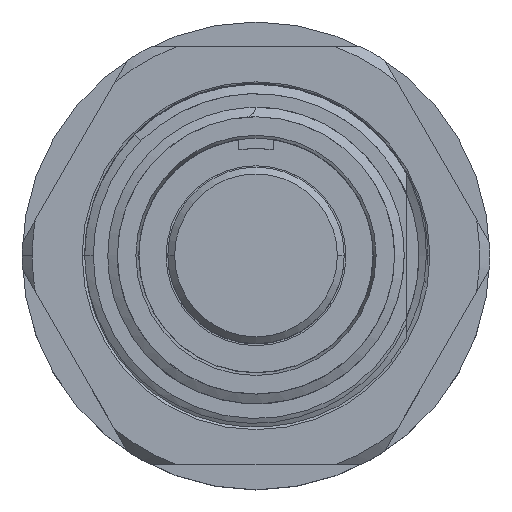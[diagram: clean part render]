
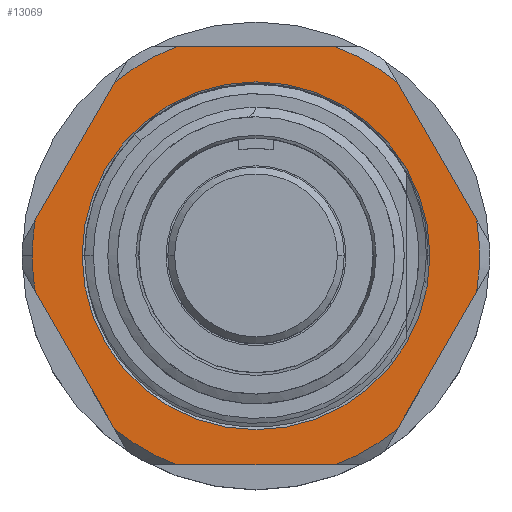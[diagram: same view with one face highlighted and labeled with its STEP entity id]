
A CAD part, top view. The second image highlights one B-rep face of the part: STEP entity #13069.
In plain terms, the highlighted planar face has unit normal (0, 0, 1).
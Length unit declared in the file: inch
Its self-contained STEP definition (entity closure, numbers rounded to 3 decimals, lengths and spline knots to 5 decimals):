
#120 = AXIS2_PLACEMENT_3D ( 'NONE', #1290, #14482, #3548 ) ;
#208 = AXIS2_PLACEMENT_3D ( 'NONE', #13553, #9475, #6956 ) ;
#326 = CARTESIAN_POINT ( 'NONE',  ( 0., 0.61, -0.59 ) ) ;
#775 = CARTESIAN_POINT ( 'NONE',  ( 0.74803, 0.07562, -0.59 ) ) ;
#798 = DIRECTION ( 'NONE',  ( 0., 0., 1. ) ) ;
#973 = EDGE_CURVE ( 'NONE', #11916, #5645, #5217, .T. ) ;
#1021 = VERTEX_POINT ( 'NONE', #5315 ) ;
#1097 = VERTEX_POINT ( 'NONE', #13100 ) ;
#1211 = VERTEX_POINT ( 'NONE', #13274 ) ;
#1290 = CARTESIAN_POINT ( 'NONE',  ( 0., 0., -0.59 ) ) ;
#1325 = DIRECTION ( 'NONE',  ( 0., 0., -1. ) ) ;
#1418 = CARTESIAN_POINT ( 'NONE',  ( 0., 0., -0.59 ) ) ;
#1580 = VERTEX_POINT ( 'NONE', #7997 ) ;
#1667 = LINE ( 'NONE', #8447, #3073 ) ;
#1679 = AXIS2_PLACEMENT_3D ( 'NONE', #12071, #1325, #5249 ) ;
#1687 = EDGE_LOOP ( 'NONE', ( #16319, #13036, #3665, #13702, #3775, #3598, #13349, #6292, #15923, #15251, #8554, #9880, #3690 ) ) ;
#1839 = VERTEX_POINT ( 'NONE', #7967 ) ;
#1917 = VERTEX_POINT ( 'NONE', #3931 ) ;
#2083 = EDGE_CURVE ( 'NONE', #8717, #1097, #17136, .T. ) ;
#2262 = CARTESIAN_POINT ( 'NONE',  ( -0.23164, 0.61, -0.59 ) ) ;
#2513 = CARTESIAN_POINT ( 'NONE',  ( -0.41246, -0.5056, -0.59 ) ) ;
#2644 = AXIS2_PLACEMENT_3D ( 'NONE', #14952, #13651, #11131 ) ;
#2880 = CIRCLE ( 'NONE', #4279, 0.6525 ) ;
#3034 = EDGE_CURVE ( 'NONE', #6435, #1021, #4296, .T. ) ;
#3073 = VECTOR ( 'NONE', #4381, 39.37008 ) ;
#3199 = CARTESIAN_POINT ( 'NONE',  ( 0., -0.61, -0.59 ) ) ;
#3202 = EDGE_CURVE ( 'NONE', #11916, #10864, #15089, .T. ) ;
#3402 = CARTESIAN_POINT ( 'NONE',  ( 0., 0., -0.59 ) ) ;
#3492 = DIRECTION ( 'NONE',  ( 1., 0., 0. ) ) ;
#3523 = CARTESIAN_POINT ( 'NONE',  ( 0., 0., -0.59 ) ) ;
#3548 = DIRECTION ( 'NONE',  ( 1., 0., 0. ) ) ;
#3598 = ORIENTED_EDGE ( 'NONE', *, *, #12241, .T. ) ;
#3665 = ORIENTED_EDGE ( 'NONE', *, *, #13247, .F. ) ;
#3690 = ORIENTED_EDGE ( 'NONE', *, *, #973, .T. ) ;
#3750 = CIRCLE ( 'NONE', #13461, 0.6525 ) ;
#3775 = ORIENTED_EDGE ( 'NONE', *, *, #9316, .F. ) ;
#3929 = FACE_OUTER_BOUND ( 'NONE', #1687, .T. ) ;
#3931 = CARTESIAN_POINT ( 'NONE',  ( 0.23164, 0.61, -0.59 ) ) ;
#3991 = CIRCLE ( 'NONE', #120, 0.6525 ) ;
#4022 = PLANE ( 'NONE',  #1679 ) ;
#4279 = AXIS2_PLACEMENT_3D ( 'NONE', #5023, #13074, #17170 ) ;
#4296 = LINE ( 'NONE', #8371, #16715 ) ;
#4381 = DIRECTION ( 'NONE',  ( 0.5, -0.866, 0. ) ) ;
#4431 = DIRECTION ( 'NONE',  ( -1., 0., 0. ) ) ;
#4682 = CARTESIAN_POINT ( 'NONE',  ( -0.64409, 0.1044, -0.59 ) ) ;
#4775 = CARTESIAN_POINT ( 'NONE',  ( 0.41246, -0.5056, -0.59 ) ) ;
#4914 = EDGE_CURVE ( 'NONE', #1097, #8717, #5931, .T. ) ;
#5023 = CARTESIAN_POINT ( 'NONE',  ( 0., 0., -0.59 ) ) ;
#5163 = CARTESIAN_POINT ( 'NONE',  ( 0.23164, -0.61, -0.59 ) ) ;
#5217 = CIRCLE ( 'NONE', #6867, 0.6525 ) ;
#5249 = DIRECTION ( 'NONE',  ( -1., 0., 0. ) ) ;
#5315 = CARTESIAN_POINT ( 'NONE',  ( -0.41246, 0.5056, -0.59 ) ) ;
#5445 = VERTEX_POINT ( 'NONE', #2513 ) ;
#5535 = CARTESIAN_POINT ( 'NONE',  ( 0.5075, 0., -0.59 ) ) ;
#5645 = VERTEX_POINT ( 'NONE', #4775 ) ;
#5917 = LINE ( 'NONE', #775, #16485 ) ;
#5931 = CIRCLE ( 'NONE', #15600, 0.5075 ) ;
#6292 = ORIENTED_EDGE ( 'NONE', *, *, #14908, .T. ) ;
#6347 = EDGE_LOOP ( 'NONE', ( #9715, #11431 ) ) ;
#6435 = VERTEX_POINT ( 'NONE', #4682 ) ;
#6812 = EDGE_CURVE ( 'NONE', #9578, #1580, #3991, .T. ) ;
#6867 = AXIS2_PLACEMENT_3D ( 'NONE', #11294, #798, #15444 ) ;
#6956 = DIRECTION ( 'NONE',  ( 1., 0., 0. ) ) ;
#7390 = EDGE_CURVE ( 'NONE', #1839, #1917, #2880, .T. ) ;
#7405 = CARTESIAN_POINT ( 'NONE',  ( -0.6525, 0., -0.59 ) ) ;
#7439 = DIRECTION ( 'NONE',  ( -0.5, 0.866, 0. ) ) ;
#7519 = CARTESIAN_POINT ( 'NONE',  ( -0.74803, 0.07562, -0.59 ) ) ;
#7967 = CARTESIAN_POINT ( 'NONE',  ( 0.41246, 0.5056, -0.59 ) ) ;
#7997 = CARTESIAN_POINT ( 'NONE',  ( 0.64409, 0.1044, -0.59 ) ) ;
#8205 = AXIS2_PLACEMENT_3D ( 'NONE', #1418, #11912, #10446 ) ;
#8359 = CARTESIAN_POINT ( 'NONE',  ( 0.64409, -0.1044, -0.59 ) ) ;
#8371 = CARTESIAN_POINT ( 'NONE',  ( -0.30852, 0.68563, -0.59 ) ) ;
#8421 = EDGE_CURVE ( 'NONE', #5445, #1211, #13955, .T. ) ;
#8425 = EDGE_CURVE ( 'NONE', #9578, #5645, #5917, .T. ) ;
#8447 = CARTESIAN_POINT ( 'NONE',  ( 0.30852, 0.68563, -0.59 ) ) ;
#8554 = ORIENTED_EDGE ( 'NONE', *, *, #11934, .T. ) ;
#8717 = VERTEX_POINT ( 'NONE', #5535 ) ;
#9316 = EDGE_CURVE ( 'NONE', #13439, #1917, #10896, .T. ) ;
#9475 = DIRECTION ( 'NONE',  ( 0., 0., 1. ) ) ;
#9578 = VERTEX_POINT ( 'NONE', #8359 ) ;
#9715 = ORIENTED_EDGE ( 'NONE', *, *, #2083, .F. ) ;
#9836 = DIRECTION ( 'NONE',  ( 0.5, 0.866, 0. ) ) ;
#9880 = ORIENTED_EDGE ( 'NONE', *, *, #3202, .F. ) ;
#10402 = CIRCLE ( 'NONE', #2644, 0.6525 ) ;
#10446 = DIRECTION ( 'NONE',  ( 1., 0., 0. ) ) ;
#10617 = CARTESIAN_POINT ( 'NONE',  ( 0., 0., -0.59 ) ) ;
#10864 = VERTEX_POINT ( 'NONE', #16057 ) ;
#10896 = LINE ( 'NONE', #326, #15934 ) ;
#11131 = DIRECTION ( 'NONE',  ( 1., 0., 0. ) ) ;
#11294 = CARTESIAN_POINT ( 'NONE',  ( 0., 0., -0.59 ) ) ;
#11431 = ORIENTED_EDGE ( 'NONE', *, *, #4914, .F. ) ;
#11439 = VECTOR ( 'NONE', #4431, 39.37008 ) ;
#11506 = DIRECTION ( 'NONE',  ( 1., 0., 0. ) ) ;
#11620 = EDGE_CURVE ( 'NONE', #14099, #1211, #3750, .T. ) ;
#11861 = AXIS2_PLACEMENT_3D ( 'NONE', #3402, #12592, #3492 ) ;
#11912 = DIRECTION ( 'NONE',  ( 0., 0., 1. ) ) ;
#11916 = VERTEX_POINT ( 'NONE', #5163 ) ;
#11934 = EDGE_CURVE ( 'NONE', #5445, #10864, #15682, .T. ) ;
#12071 = CARTESIAN_POINT ( 'NONE',  ( 0., 0.5075, -0.59 ) ) ;
#12241 = EDGE_CURVE ( 'NONE', #13439, #1021, #10402, .T. ) ;
#12304 = VECTOR ( 'NONE', #7439, 39.37008 ) ;
#12592 = DIRECTION ( 'NONE',  ( 0., 0., 1. ) ) ;
#12646 = CIRCLE ( 'NONE', #208, 0.6525 ) ;
#12719 = DIRECTION ( 'NONE',  ( -0.5, -0.866, 0. ) ) ;
#13036 = ORIENTED_EDGE ( 'NONE', *, *, #6812, .T. ) ;
#13069 = ADVANCED_FACE ( 'NONE', ( #16001, #3929 ), #4022, .F. ) ;
#13074 = DIRECTION ( 'NONE',  ( 0., 0., 1. ) ) ;
#13100 = CARTESIAN_POINT ( 'NONE',  ( -0.5075, 0., -0.59 ) ) ;
#13247 = EDGE_CURVE ( 'NONE', #1839, #1580, #1667, .T. ) ;
#13274 = CARTESIAN_POINT ( 'NONE',  ( -0.64409, -0.1044, -0.59 ) ) ;
#13303 = DIRECTION ( 'NONE',  ( 1., 0., 0. ) ) ;
#13349 = ORIENTED_EDGE ( 'NONE', *, *, #3034, .F. ) ;
#13439 = VERTEX_POINT ( 'NONE', #2262 ) ;
#13461 = AXIS2_PLACEMENT_3D ( 'NONE', #10617, #16878, #13303 ) ;
#13553 = CARTESIAN_POINT ( 'NONE',  ( 0., 0., -0.59 ) ) ;
#13651 = DIRECTION ( 'NONE',  ( 0., 0., 1. ) ) ;
#13702 = ORIENTED_EDGE ( 'NONE', *, *, #7390, .T. ) ;
#13955 = LINE ( 'NONE', #7519, #12304 ) ;
#14099 = VERTEX_POINT ( 'NONE', #7405 ) ;
#14118 = DIRECTION ( 'NONE',  ( 0., 0., 1. ) ) ;
#14482 = DIRECTION ( 'NONE',  ( 0., 0., 1. ) ) ;
#14908 = EDGE_CURVE ( 'NONE', #6435, #14099, #12646, .T. ) ;
#14952 = CARTESIAN_POINT ( 'NONE',  ( 0., 0., -0.59 ) ) ;
#15089 = LINE ( 'NONE', #3199, #11439 ) ;
#15251 = ORIENTED_EDGE ( 'NONE', *, *, #8421, .F. ) ;
#15444 = DIRECTION ( 'NONE',  ( 1., 0., 0. ) ) ;
#15600 = AXIS2_PLACEMENT_3D ( 'NONE', #3523, #14118, #11506 ) ;
#15682 = CIRCLE ( 'NONE', #8205, 0.6525 ) ;
#15923 = ORIENTED_EDGE ( 'NONE', *, *, #11620, .T. ) ;
#15934 = VECTOR ( 'NONE', #16203, 39.37008 ) ;
#16001 = FACE_BOUND ( 'NONE', #6347, .T. ) ;
#16057 = CARTESIAN_POINT ( 'NONE',  ( -0.23164, -0.61, -0.59 ) ) ;
#16203 = DIRECTION ( 'NONE',  ( 1., 0., 0. ) ) ;
#16319 = ORIENTED_EDGE ( 'NONE', *, *, #8425, .F. ) ;
#16485 = VECTOR ( 'NONE', #12719, 39.37008 ) ;
#16715 = VECTOR ( 'NONE', #9836, 39.37008 ) ;
#16878 = DIRECTION ( 'NONE',  ( 0., 0., 1. ) ) ;
#17136 = CIRCLE ( 'NONE', #11861, 0.5075 ) ;
#17170 = DIRECTION ( 'NONE',  ( 1., 0., 0. ) ) ;
